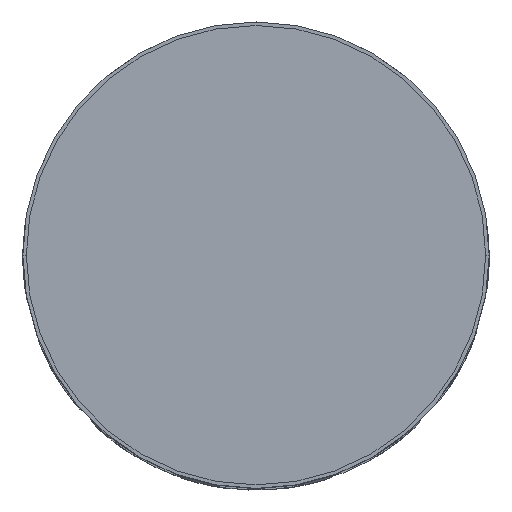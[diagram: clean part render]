
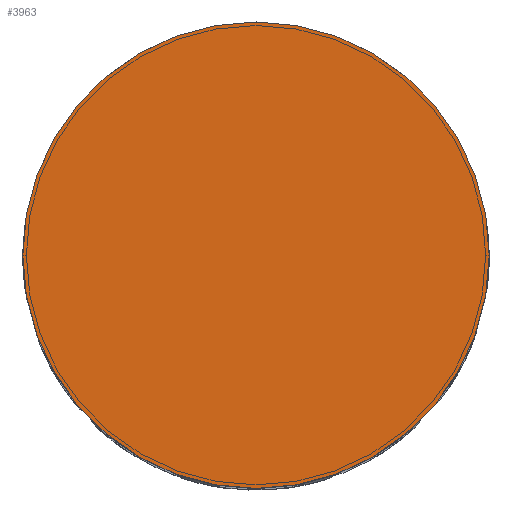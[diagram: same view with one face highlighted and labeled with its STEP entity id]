
A CAD part, top view. The second image highlights one B-rep face of the part: STEP entity #3963.
In plain terms, the highlighted planar face has unit normal (0, 0, 1).
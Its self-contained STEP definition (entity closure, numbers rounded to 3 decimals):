
#5 = ORIENTED_EDGE ( 'NONE', *, *, #4858, .T. ) ;
#184 = DIRECTION ( 'NONE',  ( 0., 0., 1. ) ) ;
#1020 = FACE_OUTER_BOUND ( 'NONE', #3111, .T. ) ;
#1462 = DIRECTION ( 'NONE',  ( 1., 0., 0. ) ) ;
#2019 = CARTESIAN_POINT ( 'NONE',  ( 0., 0., 633.209 ) ) ;
#2193 = CIRCLE ( 'NONE', #4395, 20. ) ;
#2302 = VERTEX_POINT ( 'NONE', #6063 ) ;
#2565 = DIRECTION ( 'NONE',  ( 1., 0., 0. ) ) ;
#2879 = CARTESIAN_POINT ( 'NONE',  ( -20., 0., 633.209 ) ) ;
#3111 = EDGE_LOOP ( 'NONE', ( #6745, #5 ) ) ;
#3385 = CIRCLE ( 'NONE', #6817, 20. ) ;
#3721 = CARTESIAN_POINT ( 'NONE',  ( 0., 0., 633.209 ) ) ;
#3963 = ADVANCED_FACE ( 'NONE', ( #1020 ), #5582, .T. ) ;
#4089 = AXIS2_PLACEMENT_3D ( 'NONE', #6343, #184, #2565 ) ;
#4395 = AXIS2_PLACEMENT_3D ( 'NONE', #3721, #5050, #4608 ) ;
#4494 = DIRECTION ( 'NONE',  ( 0., 0., 1. ) ) ;
#4530 = VERTEX_POINT ( 'NONE', #2879 ) ;
#4608 = DIRECTION ( 'NONE',  ( 1., 0., 0. ) ) ;
#4858 = EDGE_CURVE ( 'NONE', #2302, #4530, #2193, .T. ) ;
#5050 = DIRECTION ( 'NONE',  ( 0., 0., 1. ) ) ;
#5582 = PLANE ( 'NONE',  #4089 ) ;
#5727 = EDGE_CURVE ( 'NONE', #4530, #2302, #3385, .T. ) ;
#6063 = CARTESIAN_POINT ( 'NONE',  ( 20., 0., 633.209 ) ) ;
#6343 = CARTESIAN_POINT ( 'NONE',  ( 0., 0., 633.209 ) ) ;
#6745 = ORIENTED_EDGE ( 'NONE', *, *, #5727, .T. ) ;
#6817 = AXIS2_PLACEMENT_3D ( 'NONE', #2019, #4494, #1462 ) ;
